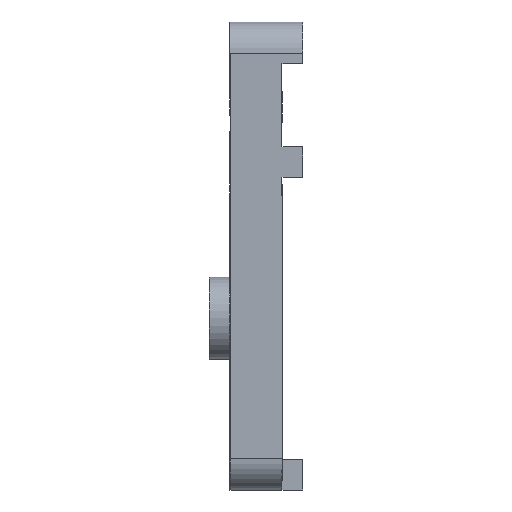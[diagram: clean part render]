
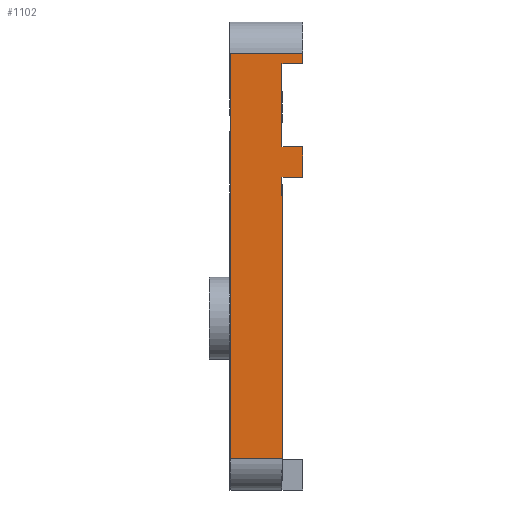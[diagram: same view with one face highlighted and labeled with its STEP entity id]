
A CAD part, left-side view. The second image highlights one B-rep face of the part: STEP entity #1102.
In plain terms, the highlighted planar face has unit normal (-1, 0, 0).
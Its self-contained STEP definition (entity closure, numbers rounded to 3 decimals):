
#39=PLANE('',#1192);
#84=FACE_OUTER_BOUND('',#153,.T.);
#153=EDGE_LOOP('',(#792,#793,#794,#795,#796,#797,#798,#799,#800,#801));
#229=LINE('',#1599,#350);
#231=LINE('',#1605,#352);
#238=LINE('',#1642,#359);
#239=LINE('',#1644,#360);
#240=LINE('',#1646,#361);
#241=LINE('',#1648,#362);
#242=LINE('',#1650,#363);
#243=LINE('',#1652,#364);
#244=LINE('',#1654,#365);
#245=LINE('',#1655,#366);
#350=VECTOR('',#1280,10.);
#352=VECTOR('',#1286,10.);
#359=VECTOR('',#1319,10.);
#360=VECTOR('',#1320,10.);
#361=VECTOR('',#1321,10.);
#362=VECTOR('',#1322,10.);
#363=VECTOR('',#1323,10.);
#364=VECTOR('',#1324,10.);
#365=VECTOR('',#1325,10.);
#366=VECTOR('',#1326,10.);
#508=VERTEX_POINT('',#1596);
#509=VERTEX_POINT('',#1598);
#511=VERTEX_POINT('',#1604);
#528=VERTEX_POINT('',#1641);
#529=VERTEX_POINT('',#1643);
#530=VERTEX_POINT('',#1645);
#531=VERTEX_POINT('',#1647);
#532=VERTEX_POINT('',#1649);
#533=VERTEX_POINT('',#1651);
#534=VERTEX_POINT('',#1653);
#612=EDGE_CURVE('',#508,#509,#229,.T.);
#615=EDGE_CURVE('',#509,#511,#231,.T.);
#634=EDGE_CURVE('',#508,#528,#238,.T.);
#635=EDGE_CURVE('',#528,#529,#239,.T.);
#636=EDGE_CURVE('',#530,#529,#240,.T.);
#637=EDGE_CURVE('',#531,#530,#241,.T.);
#638=EDGE_CURVE('',#531,#532,#242,.T.);
#639=EDGE_CURVE('',#532,#533,#243,.T.);
#640=EDGE_CURVE('',#534,#533,#244,.T.);
#641=EDGE_CURVE('',#511,#534,#245,.T.);
#792=ORIENTED_EDGE('',*,*,#612,.F.);
#793=ORIENTED_EDGE('',*,*,#634,.T.);
#794=ORIENTED_EDGE('',*,*,#635,.T.);
#795=ORIENTED_EDGE('',*,*,#636,.F.);
#796=ORIENTED_EDGE('',*,*,#637,.F.);
#797=ORIENTED_EDGE('',*,*,#638,.T.);
#798=ORIENTED_EDGE('',*,*,#639,.T.);
#799=ORIENTED_EDGE('',*,*,#640,.F.);
#800=ORIENTED_EDGE('',*,*,#641,.F.);
#801=ORIENTED_EDGE('',*,*,#615,.F.);
#1102=ADVANCED_FACE('',(#84),#39,.T.);
#1192=AXIS2_PLACEMENT_3D('',#1640,#1317,#1318);
#1280=DIRECTION('',(0.,1.,0.));
#1286=DIRECTION('',(0.,0.,1.));
#1317=DIRECTION('center_axis',(-1.,0.,0.));
#1318=DIRECTION('ref_axis',(0.,0.,-1.));
#1319=DIRECTION('',(0.,0.,1.));
#1320=DIRECTION('',(0.,-1.,0.));
#1321=DIRECTION('',(0.,0.,-1.));
#1322=DIRECTION('',(0.,-1.,0.));
#1323=DIRECTION('',(0.,0.,1.));
#1324=DIRECTION('',(0.,-1.,0.));
#1325=DIRECTION('',(0.,0.,-1.));
#1326=DIRECTION('',(0.,-1.,0.));
#1596=CARTESIAN_POINT('',(-40.936,45.68,24.6));
#1598=CARTESIAN_POINT('',(-40.936,50.68,24.6));
#1599=CARTESIAN_POINT('',(-40.936,48.18,24.6));
#1604=CARTESIAN_POINT('',(-40.936,50.68,63.6));
#1605=CARTESIAN_POINT('',(-40.936,50.68,21.6));
#1640=CARTESIAN_POINT('Origin',(-40.936,50.68,64.6));
#1641=CARTESIAN_POINT('',(-40.936,45.68,51.65));
#1642=CARTESIAN_POINT('',(-40.936,45.68,53.85));
#1643=CARTESIAN_POINT('',(-40.936,43.68,51.65));
#1644=CARTESIAN_POINT('',(-40.936,45.68,51.65));
#1645=CARTESIAN_POINT('',(-40.936,43.68,54.6));
#1646=CARTESIAN_POINT('',(-40.936,43.68,51.65));
#1647=CARTESIAN_POINT('',(-40.936,45.68,54.6));
#1648=CARTESIAN_POINT('',(-40.936,45.68,54.6));
#1649=CARTESIAN_POINT('',(-40.936,45.68,62.6));
#1650=CARTESIAN_POINT('',(-40.936,45.68,53.85));
#1651=CARTESIAN_POINT('',(-40.936,43.68,62.6));
#1652=CARTESIAN_POINT('',(-40.936,45.68,62.6));
#1653=CARTESIAN_POINT('',(-40.936,43.68,63.6));
#1654=CARTESIAN_POINT('',(-40.936,43.68,66.6));
#1655=CARTESIAN_POINT('',(-40.936,50.68,63.6));
